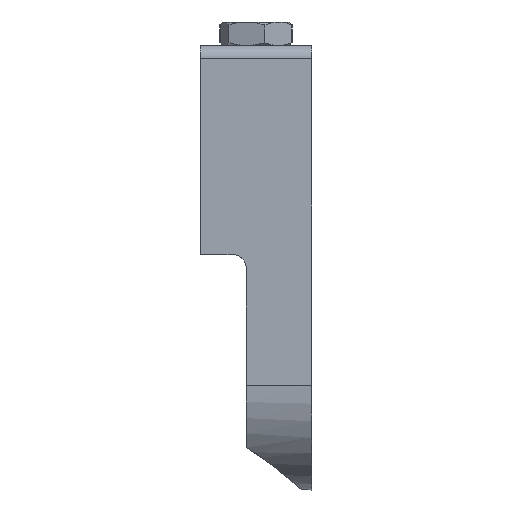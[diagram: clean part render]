
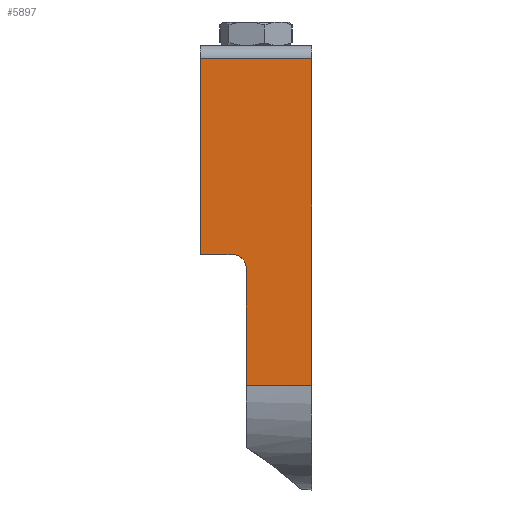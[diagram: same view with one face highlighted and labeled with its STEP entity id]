
A CAD part, left-side view. The second image highlights one B-rep face of the part: STEP entity #5897.
In plain terms, the highlighted planar face has unit normal (-1, 0, 0).
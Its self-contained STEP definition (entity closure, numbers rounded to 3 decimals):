
#107 = VERTEX_POINT ( 'NONE', #750 ) ;
#204 = EDGE_CURVE ( 'NONE', #1102, #107, #3877, .T. ) ;
#283 = AXIS2_PLACEMENT_3D ( 'NONE', #5239, #5219, #5215 ) ;
#376 = EDGE_CURVE ( 'NONE', #1102, #5926, #2921, .T. ) ;
#423 = ORIENTED_EDGE ( 'NONE', *, *, #4838, .T. ) ;
#642 = CARTESIAN_POINT ( 'NONE',  ( -55., 1.5, -36.01 ) ) ;
#681 = ORIENTED_EDGE ( 'NONE', *, *, #5442, .T. ) ;
#750 = CARTESIAN_POINT ( 'NONE',  ( -55., 3.5, -16. ) ) ;
#1102 = VERTEX_POINT ( 'NONE', #2357 ) ;
#1260 = VERTEX_POINT ( 'NONE', #2125 ) ;
#1464 = ORIENTED_EDGE ( 'NONE', *, *, #4565, .T. ) ;
#1619 = VERTEX_POINT ( 'NONE', #5812 ) ;
#1690 = ORIENTED_EDGE ( 'NONE', *, *, #5485, .T. ) ;
#1882 = ORIENTED_EDGE ( 'NONE', *, *, #204, .T. ) ;
#2125 = CARTESIAN_POINT ( 'NONE',  ( -55., -8.5, 14. ) ) ;
#2357 = CARTESIAN_POINT ( 'NONE',  ( -55., 8.5, -16. ) ) ;
#2473 = VECTOR ( 'NONE', #4686, 1000. ) ;
#2697 = CARTESIAN_POINT ( 'NONE',  ( -55., 0., -16. ) ) ;
#2715 = DIRECTION ( 'NONE',  ( 0., -1., 0. ) ) ;
#2921 = LINE ( 'NONE', #4600, #2473 ) ;
#3052 = ORIENTED_EDGE ( 'NONE', *, *, #376, .F. ) ;
#3257 = AXIS2_PLACEMENT_3D ( 'NONE', #4131, #4126, #4117 ) ;
#3281 = EDGE_LOOP ( 'NONE', ( #1882, #1690, #681, #5573, #423, #1464, #3052 ) ) ;
#3551 = VERTEX_POINT ( 'NONE', #642 ) ;
#3644 = CARTESIAN_POINT ( 'NONE',  ( -55., 1.5, -18. ) ) ;
#3821 = EDGE_CURVE ( 'NONE', #3551, #1619, #5821, .T. ) ;
#3855 = DIRECTION ( 'NONE',  ( 0., 1., 0. ) ) ;
#3877 = LINE ( 'NONE', #2697, #3985 ) ;
#3925 = CARTESIAN_POINT ( 'NONE',  ( -55., 0., -36.01 ) ) ;
#3985 = VECTOR ( 'NONE', #2715, 1000. ) ;
#3990 = DIRECTION ( 'NONE',  ( 0., -1., 0. ) ) ;
#4117 = DIRECTION ( 'NONE',  ( 0., 0., -1. ) ) ;
#4126 = DIRECTION ( 'NONE',  ( 1., 0., 0. ) ) ;
#4131 = CARTESIAN_POINT ( 'NONE',  ( -55., 3.5, -18. ) ) ;
#4145 = FACE_OUTER_BOUND ( 'NONE', #3281, .T. ) ;
#4305 = CARTESIAN_POINT ( 'NONE',  ( -55., 0., 14. ) ) ;
#4372 = CARTESIAN_POINT ( 'NONE',  ( -55., -8.5, -18.204 ) ) ;
#4376 = DIRECTION ( 'NONE',  ( 0., 0., -1. ) ) ;
#4394 = CARTESIAN_POINT ( 'NONE',  ( -55., 1.5, -11.005 ) ) ;
#4565 = EDGE_CURVE ( 'NONE', #1260, #5926, #6143, .T. ) ;
#4575 = VECTOR ( 'NONE', #3990, 1000. ) ;
#4600 = CARTESIAN_POINT ( 'NONE',  ( -55., 8.5, 0. ) ) ;
#4632 = CIRCLE ( 'NONE', #3257, 2. ) ;
#4686 = DIRECTION ( 'NONE',  ( 0., 0., 1. ) ) ;
#4740 = LINE ( 'NONE', #4394, #4805 ) ;
#4748 = DIRECTION ( 'NONE',  ( 0., 0., 1. ) ) ;
#4805 = VECTOR ( 'NONE', #4376, 1000. ) ;
#4838 = EDGE_CURVE ( 'NONE', #1619, #1260, #5677, .T. ) ;
#5128 = CARTESIAN_POINT ( 'NONE',  ( -55., 8.5, 14. ) ) ;
#5215 = DIRECTION ( 'NONE',  ( 0., 0., -1. ) ) ;
#5219 = DIRECTION ( 'NONE',  ( -1., 0., 0. ) ) ;
#5239 = CARTESIAN_POINT ( 'NONE',  ( -55., 8.5, 14. ) ) ;
#5289 = PLANE ( 'NONE',  #283 ) ;
#5442 = EDGE_CURVE ( 'NONE', #6107, #3551, #4740, .T. ) ;
#5485 = EDGE_CURVE ( 'NONE', #107, #6107, #4632, .T. ) ;
#5573 = ORIENTED_EDGE ( 'NONE', *, *, #3821, .T. ) ;
#5642 = VECTOR ( 'NONE', #4748, 1000. ) ;
#5677 = LINE ( 'NONE', #4372, #5642 ) ;
#5812 = CARTESIAN_POINT ( 'NONE',  ( -55., -8.5, -36.01 ) ) ;
#5821 = LINE ( 'NONE', #3925, #4575 ) ;
#5897 = ADVANCED_FACE ( 'NONE', ( #4145 ), #5289, .T. ) ;
#5926 = VERTEX_POINT ( 'NONE', #5128 ) ;
#5997 = VECTOR ( 'NONE', #3855, 1000. ) ;
#6107 = VERTEX_POINT ( 'NONE', #3644 ) ;
#6143 = LINE ( 'NONE', #4305, #5997 ) ;
